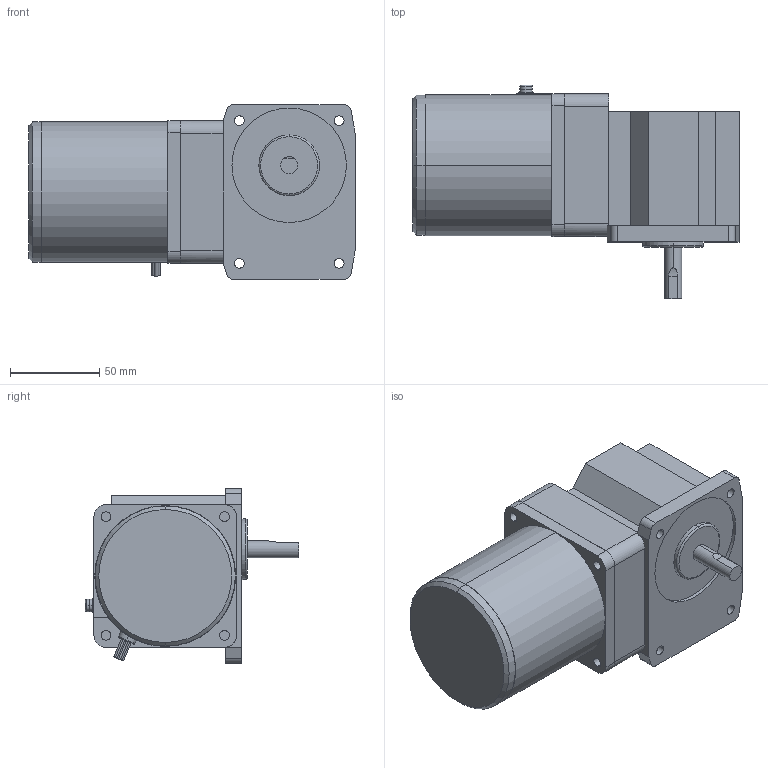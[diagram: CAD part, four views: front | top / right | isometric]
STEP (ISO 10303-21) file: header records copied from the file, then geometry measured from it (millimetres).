
FILE_DESCRIPTION(('starvars output'),'2;1');
FILE_NAME('4IK25GN-SW2 _ 4GN120RAA.stp','10:33:39 2015/05/11',( 'Thomas Industrial Network Germany GmbH'),( 'Thomas Industrial Network Germany GmbH'),'unknown preprocess','ACIS' ,'unknown authorization');
FILE_SCHEMA(('AUTOMOTIVE_DESIGN_CC2 {UNKNOWN IMPLEMENTATION LEVEL}'));
Length unit declared in the file: millimetre
Products named in the file (1): PRODUCT_ID_97
Bounding box: 183 x 120 x 98 mm (x, y, z)
Volume: 971483.9 mm3; surface area: 72259.7 mm2
Topology: 2 solids, 2 shells, 137 faces, 335 edges, 221 vertices
Faces by surface type: plane 65, cylinder 64, torus 6, cone 2
Entity records: 4944 total; most frequent: CARTESIAN_POINT 712, ORIENTED_EDGE 670, DIRECTION 585, EDGE_CURVE 335, VERTEX_POINT 221, AXIS2_PLACEMENT_3D 200, VECTOR 185, LINE 185
